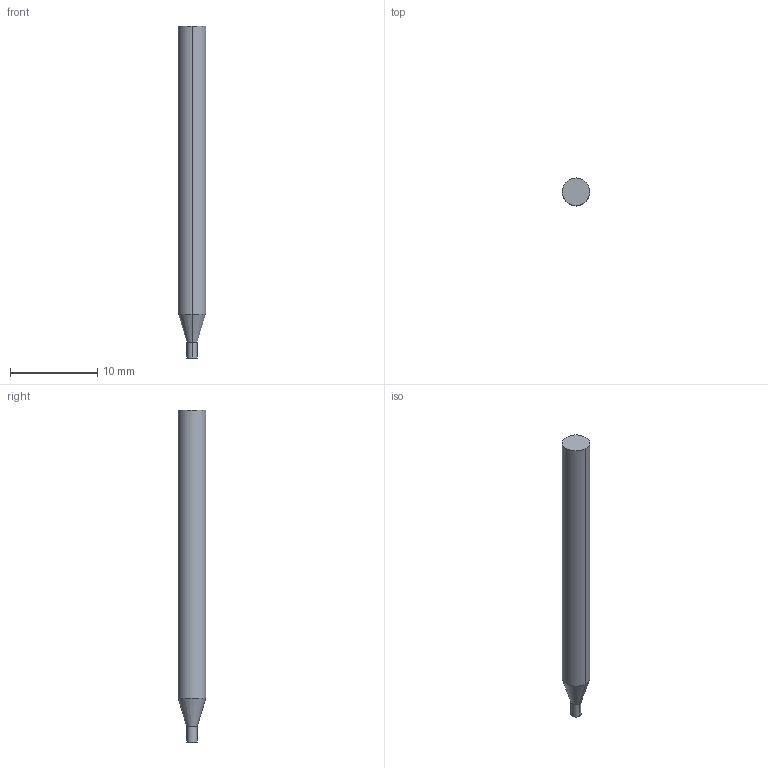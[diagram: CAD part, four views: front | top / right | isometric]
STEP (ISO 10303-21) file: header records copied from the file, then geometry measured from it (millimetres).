
FILE_DESCRIPTION((' '),'2;1');
FILE_NAME( '3MVS0468AH.stp', '2026-01-21T19:07:10', (' '), ('--- Datakit www.datakit.com---'), ' Datakit CrossCadWare V2025.4 Sep 19 2025', 'Mastercam 2027', ' ');
FILE_SCHEMA(('AUTOMOTIVE_DESIGN { 1 0 10303 214 1 1 1 1 }'));
Length unit declared in the file: inch
Products named in the file (1): 3MVS0468AH
Bounding box: 3.17 x 3.17 x 38.1 mm (x, y, z)
Volume: 276.8 mm3; surface area: 368.8 mm2
Topology: 1 solids, 1 shells, 8 faces, 14 edges, 8 vertices
Faces by surface type: cylinder 4, plane 2, cone 2
Entity records: 264 total; most frequent: DIRECTION 48, CARTESIAN_POINT 35, ORIENTED_EDGE 28, AXIS2_PLACEMENT_3D 21, EDGE_CURVE 14, VERTEX_POINT 8, CIRCLE 8, EDGE_LOOP 8
